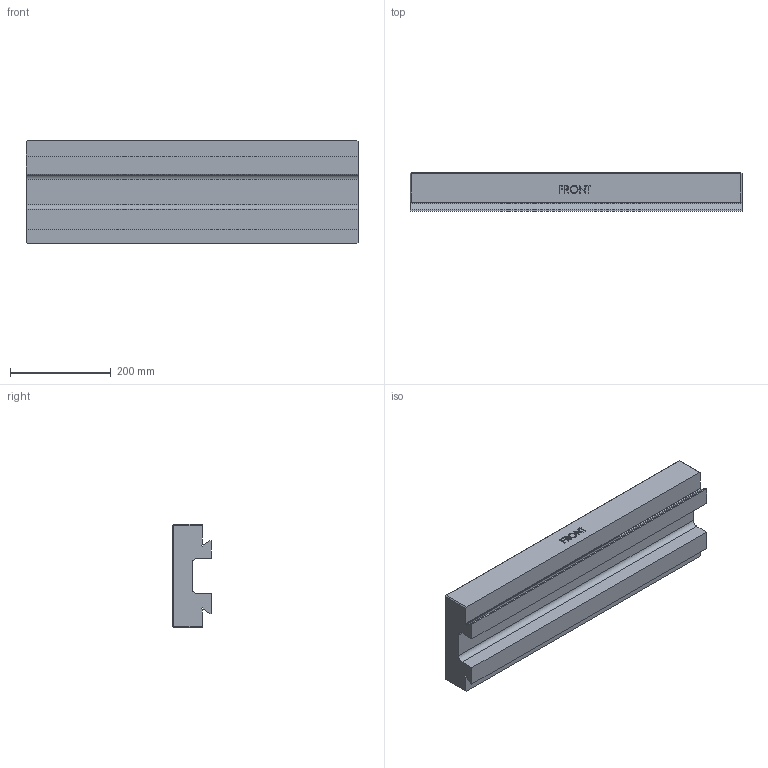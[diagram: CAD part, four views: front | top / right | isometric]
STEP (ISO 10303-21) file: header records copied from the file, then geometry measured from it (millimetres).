
FILE_DESCRIPTION (( 'STEP AP214' ), '1' );
FILE_NAME ('770 TABLE.STEP', '2013-12-10T15:36:59', ( '' ), ( '' ), 'SwSTEP 2.0', 'SolidWorks 2012', '' );
FILE_SCHEMA (( 'AUTOMOTIVE_DESIGN' ));
Length unit declared in the file: millimetre
Products named in the file (1): 770 TABLE
Bounding box: 660 x 77 x 205 mm (x, y, z)
Volume: 6293379.4 mm3; surface area: 640234.9 mm2
Topology: 1 solids, 1 shells, 159 faces, 437 edges, 286 vertices
Faces by surface type: plane 130, cylinder 15, bspline 14
Entity records: 7749 total; most frequent: CARTESIAN_POINT 1977, ORIENTED_EDGE 874, DIRECTION 740, EDGE_CURVE 437, VECTOR 372, LINE 372, VERTEX_POINT 286, AXIS2_PLACEMENT_3D 184
